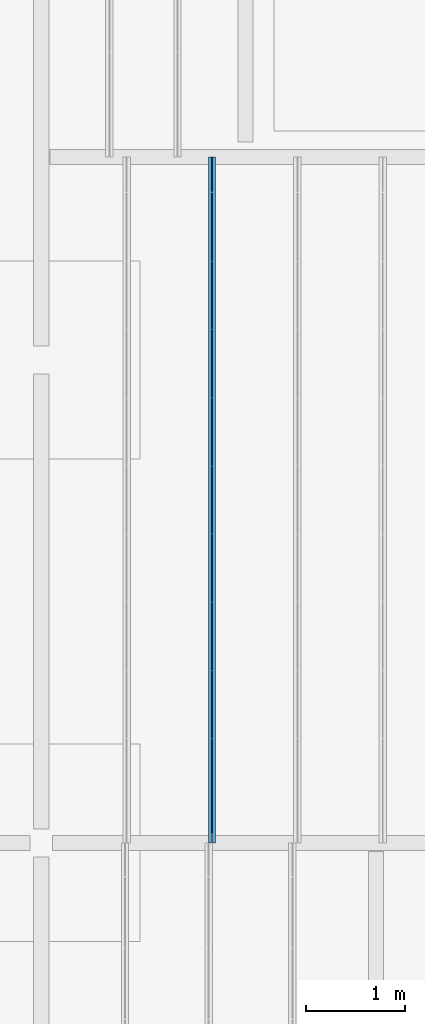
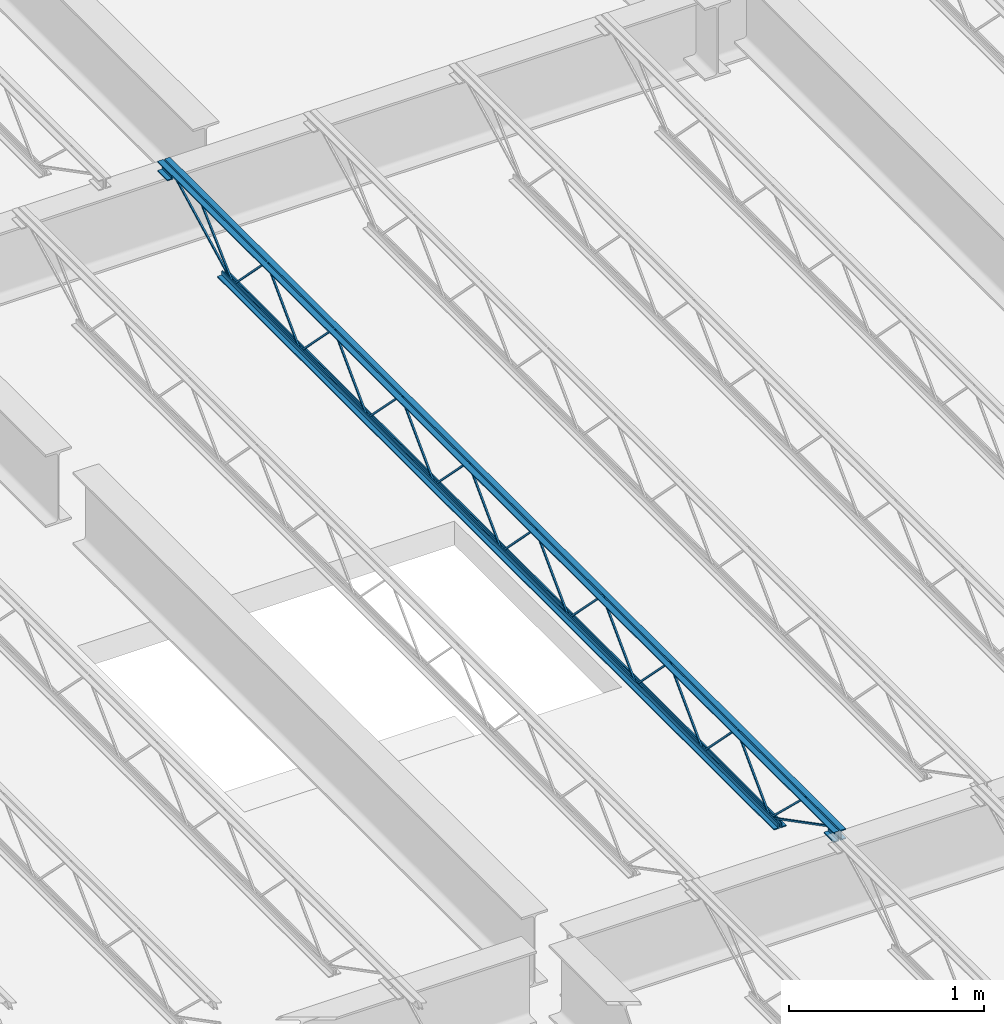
# One storey, part 25 of 75: 1 beam.
"""IFC2X3 building model written with IfcOpenShell, lengths in metres."""

import ifcopenshell
import ifcopenshell.guid

model = None  # the IFC model being written
_history = None  # IfcOwnerHistory: only IFC2X3 demands one
_inside = {}  # id of a spatial element -> (the spatial element, [elements in it])
_under = {}  # id of a project, library or spatial element -> (it, [spatial elements below it])
_declared = {}  # id of a project -> (the project, [libraries it declares])
_typed = {}  # id of a type object -> (the type object, [elements of that type])
_made_of = {}  # id of a material, layer set ... -> (it, [elements and type objects made of it])


def new_model(schema):
    """Start an empty IFC model of exactly this schema.

    Asked for "IFC4X3", IfcOpenShell would pick the latest addendum, in which some entities
    have other attributes; the version numbers below select the first issue.
    IFC2X3 requires an IfcOwnerHistory on every rooted entity: one is made here for all.
    """
    global model, _history
    if schema == "IFC4X3":
        model = ifcopenshell.file(schema_version=(4, 3, 0, 0))
    else:
        model = ifcopenshell.file(schema=schema)
    _inside.clear()
    _under.clear()
    _declared.clear()
    _typed.clear()
    _made_of.clear()
    _history = None
    if model.schema == "IFC2X3":
        org = make("IfcOrganization", Name="unknown")
        user = make(
            "IfcPersonAndOrganization",
            ThePerson=make("IfcPerson", FamilyName="unknown"),
            TheOrganization=org,
        )
        app = make(
            "IfcApplication",
            ApplicationDeveloper=org,
            Version="unknown",
            ApplicationFullName="unknown",
            ApplicationIdentifier="unknown",
        )
        _history = make(
            "IfcOwnerHistory",
            OwningUser=user,
            OwningApplication=app,
            ChangeAction="ADDED",
            CreationDate=0,
        )
    return model


def make(cls, **values):
    """One entity of the class cls with the attributes given. An attribute that is None is left unset."""
    return model.create_entity(
        cls, **{name: value for name, value in values.items() if value is not None}
    )


def entity(cls, *values):
    """Any entity or typed value of the class cls, its attributes in the order of the schema. None: left unset."""
    e = model.create_entity(cls)
    for i, value in enumerate(values):
        if value is not None:
            e[i] = value
    return e


def rooted(cls, **values):
    """An entity with a GlobalId (a new one), such as an element, a storey or a relation."""
    return make(cls, GlobalId=ifcopenshell.guid.new(), OwnerHistory=_history, **values)


def si_unit(unit_type, name, prefix=None):
    """IfcSIUnit, for example si_unit("LENGTHUNIT", "METRE", prefix="MILLI")."""
    return make("IfcSIUnit", UnitType=unit_type, Prefix=prefix, Name=name)


def converted_unit(unit_type, name, factor, base, dimensions=None, offset=None):
    """IfcConversionBasedUnit, such as the inch: factor (a typed value) times the base unit."""
    return make(
        "IfcConversionBasedUnit"
        if offset is None
        else "IfcConversionBasedUnitWithOffset",
        ConversionOffset=offset,
        Dimensions=None
        if dimensions is None
        else entity("IfcDimensionalExponents", *dimensions),
        UnitType=unit_type,
        Name=name,
        ConversionFactor=make(
            "IfcMeasureWithUnit", ValueComponent=factor, UnitComponent=base
        ),
    )


def assignment(units):
    """IfcUnitAssignment: the units of a project."""
    return None if units is None else make("IfcUnitAssignment", Units=units)


def point(xyz):
    """IfcCartesianPoint."""
    return None if xyz is None else make("IfcCartesianPoint", Coordinates=xyz)


def direction(xyz):
    """IfcDirection."""
    return None if xyz is None else make("IfcDirection", DirectionRatios=xyz)


def frame(location, z_axis=None, x_axis=None):
    """IfcAxis2Placement3D, a coordinate frame: its origin and axes. An axis left out is left unset."""
    return make(
        "IfcAxis2Placement3D",
        Location=point(location),
        Axis=direction(z_axis),
        RefDirection=direction(x_axis),
    )


def origin():
    """The frame at (0, 0, 0) with its axes left unset."""
    return frame((0.0, 0.0, 0.0))


def place(relative_to, where):
    """IfcLocalPlacement: puts the frame where relative to a parent placement (None: the world)."""
    return make(
        "IfcLocalPlacement", PlacementRelTo=relative_to, RelativePlacement=where
    )


def context(
    kind, dimensions, precision=None, world=None, true_north=None, identifier=None
):
    """IfcGeometricRepresentationContext, for example the 3D "Model" context."""
    return make(
        "IfcGeometricRepresentationContext",
        ContextIdentifier=identifier,
        ContextType=kind,
        CoordinateSpaceDimension=dimensions,
        Precision=precision,
        WorldCoordinateSystem=world,
        TrueNorth=true_north,
    )


def project(units=None, contexts=None):
    """IfcProject with its units and contexts."""
    return rooted(
        "IfcProject",
        Name="project",
        RepresentationContexts=contexts,
        UnitsInContext=assignment(units),
    )


def spatial(cls, under=None, at=None, **own):
    """A site, building, storey or space (cls), placed at a placement, below another one or the project."""
    s = rooted(cls, ObjectPlacement=at, **own)
    if under is not None:
        _under.setdefault(under.id(), (under, []))[1].append(s)
    return s


def faces_of(points, faces, orient=None, outer=None):
    """IfcFace entities. A face is a list of loops; a loop is a list of indices into points, from 0.

    orient and outer hold one flag for each loop. By default every Orientation is true, the
    first loop of a face is its IfcFaceOuterBound and the others are IfcFaceBound.
    """
    made = []
    for i, loops in enumerate(faces):
        bounds = []
        for j, loop in enumerate(loops):
            is_outer = j == 0 if outer is None else outer[i][j]
            bounds.append(
                make(
                    "IfcFaceOuterBound" if is_outer else "IfcFaceBound",
                    Bound=make("IfcPolyLoop", Polygon=[points[k] for k in loop]),
                    Orientation=True if orient is None else orient[i][j],
                )
            )
        made.append(make("IfcFace", Bounds=bounds))
    return made


def face_set(faces, orient=None, outer=None):
    """The faces of one IfcConnectedFaceSet. surface_model builds it on its shared points."""
    return ("IfcConnectedFaceSet", faces, orient, outer)


def surface_model(cls, points, shells):
    """IfcFaceBasedSurfaceModel or IfcShellBasedSurfaceModel (cls): surfaces that need not close."""
    shared = [point(p) for p in points]
    made = [make(c, CfsFaces=faces_of(shared, fs, o, b)) for c, fs, o, b in shells]
    if cls == "IfcFaceBasedSurfaceModel":
        return make(cls, FbsmFaces=made)
    return make(cls, SbsmBoundary=made)


def shape(context_of_items, identifier, shape_type, items):
    """IfcShapeRepresentation: the items that make up one representation, for example the "Body"."""
    return make(
        "IfcShapeRepresentation",
        ContextOfItems=context_of_items,
        RepresentationIdentifier=identifier,
        RepresentationType=shape_type,
        Items=items,
    )


def made_of(thing, what):
    """Note that an element or type object is made of a material, layer set ...; save() writes the relation."""
    if what is not None:
        _made_of.setdefault(what.id(), (what, []))[1].append(thing)
    return thing


def element(
    cls,
    number,
    at=None,
    inside=None,
    cuts=None,
    type_object=None,
    material=None,
    context=None,
    identifier="Body",
    shape_type=None,
    held_by="IfcProductDefinitionShape",
    body=None,
    shapes=None,
    **own,
):
    """One element of the class cls, such as IfcWall. Its Tag is "e" and its number.

    at: its placement. inside: the storey or other place that contains it. cuts: it is an
    opening in that element (IfcRelVoidsElement). A single representation is given by context,
    identifier, shape_type and body (its items); several are given by shapes. held_by: the class
    of the entity that holds the representations. save() writes the other relations.
    """
    e = rooted(cls, Tag="e%d" % number, ObjectPlacement=at, **own)
    if body is not None:
        shapes = [shape(context, identifier, shape_type, body)]
    if shapes is not None:
        e.Representation = make(held_by, Representations=shapes)
    if inside is not None:
        _inside.setdefault(inside.id(), (inside, []))[1].append(e)
    if cuts is not None:
        rooted(
            "IfcRelVoidsElement", RelatingBuildingElement=cuts, RelatedOpeningElement=e
        )
    if type_object is not None:
        _typed.setdefault(type_object.id(), (type_object, []))[1].append(e)
    return made_of(e, material)


def aggregate(whole, parts):
    """IfcRelAggregates: a whole, such as a stair, and the parts it consists of."""
    return rooted("IfcRelAggregates", RelatingObject=whole, RelatedObjects=parts)


def save(model, path):
    """Write the relations noted so far, then the file.

    IfcRelAggregates (storeys below a building ...), IfcRelContainedInSpatialStructure (elements
    in a storey), IfcRelDefinesByType, IfcRelAssociatesMaterial and IfcRelDeclares: one each for
    every whole, place, type object, material and project.
    """
    for whole, parts in _under.values():
        aggregate(whole, parts)
    for where, things in _inside.values():
        rooted(
            "IfcRelContainedInSpatialStructure",
            RelatedElements=things,
            RelatingStructure=where,
        )
    for kind, things in _typed.values():
        rooted("IfcRelDefinesByType", RelatedObjects=things, RelatingType=kind)
    for what, things in _made_of.values():
        rooted("IfcRelAssociatesMaterial", RelatedObjects=things, RelatingMaterial=what)
    for by, libraries in _declared.values():
        rooted("IfcRelDeclares", RelatingContext=by, RelatedDefinitions=libraries)
    model.write(path)


model = new_model("IFC2X3")

# Units and contexts
model_context = context("Model", 3, precision=1e-09, world=origin())
plan_context = context("Plan", 3, precision=1e-09, world=origin())
ifc_project = project(units=[si_unit("LENGTHUNIT", "METRE"), si_unit("AREAUNIT", "SQUARE_METRE"), si_unit("VOLUMEUNIT", "CUBIC_METRE"), converted_unit("PLANEANGLEUNIT", "DEGREE", entity("IfcRatioMeasure", 0.01745329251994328), si_unit("PLANEANGLEUNIT", "RADIAN"), dimensions=[0, 0, 0, 0, 0, 0, 0]), si_unit("TIMEUNIT", "SECOND")], contexts=[model_context, plan_context])

# Site, building, storey
site_placement = place(None, origin())
site = spatial("IfcSite", under=ifc_project, at=site_placement, Name="Default", CompositionType="ELEMENT")
building_placement = place(site_placement, origin())
building = spatial("IfcBuilding", under=site, at=building_placement, CompositionType="ELEMENT")
storey_placement = place(building_placement, origin())
storey = spatial("IfcBuildingStorey", under=building, at=storey_placement, Name="First Floor", CompositionType="ELEMENT", Elevation=-3.531500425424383e-13)

# Beam
beam_placement = place(storey_placement, frame((-18.37007499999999, 18.61003029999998, 4.112000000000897), z_axis=(0.0, 0.0, 1.0), x_axis=(-1.0, 0.0, 0.0)))
element("IfcBeam", 1, at=beam_placement, inside=storey, Name="M_K-Series Bar Joist-Rod Web:14K1:14K1", ObjectType="M_K-Series Bar Joist-Rod Web:14K1", context=model_context, shape_type="SurfaceModel", body=[
    surface_model("IfcFaceBasedSurfaceModel", [(-0.03200000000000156, -2.08975000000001, 0.01110000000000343), (-0.04149999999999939, -2.08975000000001, 0.01110000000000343), (-0.04149999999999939, -2.08975000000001, 0.001600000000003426), (-0.03200000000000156, -2.08975000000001, 0.001600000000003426), (-0.04150000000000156, -2.088563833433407, 0.01110000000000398), (-0.03200000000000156, -2.088563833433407, 0.01110000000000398), (-0.0414999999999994, -2.084586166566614, 0.001600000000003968), (-0.04149999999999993, -1.746498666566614, 0.3449000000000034), (-0.04149999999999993, -1.744126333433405, 0.3449000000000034), (-0.04150000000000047, -1.40603883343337, 0.001600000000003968), (-0.04150000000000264, -1.400875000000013, 0.001600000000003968), (-0.04150000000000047, -1.400875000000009, 0.01110000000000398), (-0.04150000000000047, -1.402061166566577, 0.01110000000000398), (-0.04149999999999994, -1.740148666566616, 0.3544000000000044), (-0.04149999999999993, -1.750476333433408, 0.3544000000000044), (-0.0319999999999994, -2.084586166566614, 0.001600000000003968), (-0.03200000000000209, -1.746498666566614, 0.3449000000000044), (-0.0320000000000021, -1.744126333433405, 0.3449000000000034), (-0.03200000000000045, -1.40603883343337, 0.001600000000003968), (-0.03200000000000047, -1.400875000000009, 0.001600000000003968), (-0.03200000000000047, -1.400875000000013, 0.01110000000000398), (-0.03200000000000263, -1.402061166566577, 0.01110000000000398), (-0.0320000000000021, -1.740148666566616, 0.3544000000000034), (-0.03200000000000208, -1.750476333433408, 0.3544000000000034), (-0.03200000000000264, -2.778625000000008, 0.01110000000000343), (-0.04150000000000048, -2.778625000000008, 0.01110000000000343), (-0.04150000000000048, -2.778625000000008, 0.001600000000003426), (-0.03200000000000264, -2.778625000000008, 0.001600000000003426), (-0.04150000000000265, -2.777438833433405, 0.01110000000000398), (-0.03200000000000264, -2.777438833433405, 0.01110000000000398), (-0.04149999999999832, -2.773461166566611, 0.001600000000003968), (-0.04149999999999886, -2.435373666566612, 0.3449000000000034), (-0.04149999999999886, -2.433001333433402, 0.3449000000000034), (-0.04149999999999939, -2.094913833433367, 0.001600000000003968), (-0.04150000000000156, -2.089750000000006, 0.001600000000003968), (-0.04150000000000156, -2.089750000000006, 0.01110000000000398), (-0.04150000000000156, -2.090936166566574, 0.01110000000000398), (-0.04150000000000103, -2.429023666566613, 0.3544000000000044), (-0.04150000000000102, -2.439351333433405, 0.3544000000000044), (-0.03200000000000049, -2.773461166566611, 0.001600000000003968), (-0.03200000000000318, -2.435373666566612, 0.3449000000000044), (-0.03200000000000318, -2.433001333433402, 0.3449000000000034), (-0.03200000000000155, -2.094913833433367, 0.001600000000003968), (-0.03200000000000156, -2.089750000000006, 0.001600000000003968), (-0.03199999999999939, -2.089750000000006, 0.01110000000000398), (-0.03200000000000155, -2.090936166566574, 0.01110000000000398), (-0.03200000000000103, -2.429023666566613, 0.3544000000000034), (-0.03200000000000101, -2.439351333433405, 0.3544000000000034), (-0.03200000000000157, -3.467500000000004, 0.01110000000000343), (-0.04149999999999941, -3.467500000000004, 0.01110000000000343), (-0.04149999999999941, -3.467500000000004, 0.001600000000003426), (-0.03200000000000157, -3.467500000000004, 0.001600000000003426), (-0.04150000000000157, -3.466313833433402, 0.01110000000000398), (-0.03200000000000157, -3.466313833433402, 0.01110000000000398), (-0.04149999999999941, -3.462336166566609, 0.001600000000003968), (-0.04149999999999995, -3.124248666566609, 0.3449000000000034), (-0.04149999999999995, -3.121876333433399, 0.3449000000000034), (-0.04150000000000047, -2.783788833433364, 0.001600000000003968), (-0.04150000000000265, -2.778625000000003, 0.001600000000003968), (-0.04150000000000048, -2.778625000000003, 0.01110000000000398), (-0.04150000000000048, -2.779811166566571, 0.01110000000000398), (-0.04149999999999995, -3.11789866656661, 0.3544000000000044), (-0.04149999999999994, -3.128226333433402, 0.3544000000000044), (-0.03199999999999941, -3.462336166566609, 0.001600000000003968), (-0.0320000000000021, -3.124248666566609, 0.3449000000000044), (-0.03200000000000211, -3.121876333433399, 0.3449000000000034), (-0.03200000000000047, -2.783788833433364, 0.001600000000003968), (-0.03200000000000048, -2.778625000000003, 0.001600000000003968), (-0.03200000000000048, -2.778625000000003, 0.01110000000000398), (-0.03200000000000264, -2.779811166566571, 0.01110000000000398), (-0.03200000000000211, -3.11789866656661, 0.3544000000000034), (-0.0320000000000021, -3.128226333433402, 0.3544000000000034), (-0.03200000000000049, -4.156375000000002, 0.01110000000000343), (-0.04149999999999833, -4.156375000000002, 0.01110000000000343), (-0.04149999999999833, -4.156375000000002, 0.001600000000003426), (-0.03200000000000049, -4.156375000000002, 0.001600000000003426), (-0.0415000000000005, -4.155188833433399, 0.01110000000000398), (-0.03200000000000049, -4.155188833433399, 0.01110000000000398), (-0.04149999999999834, -4.151211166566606, 0.001600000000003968), (-0.04149999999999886, -3.813123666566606, 0.3449000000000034), (-0.04149999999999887, -3.810751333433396, 0.3449000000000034), (-0.0414999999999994, -3.472663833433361, 0.001600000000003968), (-0.04150000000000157, -3.4675, 0.001600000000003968), (-0.04149999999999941, -3.4675, 0.01110000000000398), (-0.04149999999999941, -3.468686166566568, 0.01110000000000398), (-0.04149999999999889, -3.806773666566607, 0.3544000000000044), (-0.04149999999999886, -3.817101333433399, 0.3544000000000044), (-0.03199999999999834, -4.151211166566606, 0.001600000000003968), (-0.03200000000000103, -3.813123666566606, 0.3449000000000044), (-0.03200000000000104, -3.810751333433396, 0.3449000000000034), (-0.03199999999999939, -3.472663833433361, 0.001600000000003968), (-0.0319999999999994, -3.4675, 0.001600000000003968), (-0.0319999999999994, -3.4675, 0.01110000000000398), (-0.03200000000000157, -3.468686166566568, 0.01110000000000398), (-0.03200000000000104, -3.806773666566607, 0.3544000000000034), (-0.03200000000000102, -3.817101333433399, 0.3544000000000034), (-0.03200000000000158, -4.845249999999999, 0.01110000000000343), (-0.04149999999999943, -4.845249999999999, 0.01110000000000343), (-0.04149999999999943, -4.845249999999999, 0.001600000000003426), (-0.03200000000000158, -4.845249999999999, 0.001600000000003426), (-0.04150000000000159, -4.844063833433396, 0.01110000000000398), (-0.03200000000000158, -4.844063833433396, 0.01110000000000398), (-0.04149999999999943, -4.840086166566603, 0.001600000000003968), (-0.04149999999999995, -4.501998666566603, 0.3449000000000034), (-0.04149999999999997, -4.499626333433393, 0.3449000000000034), (-0.04150000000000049, -4.161538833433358, 0.001600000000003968), (-0.0415000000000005, -4.156374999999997, 0.001600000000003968), (-0.0415000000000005, -4.156374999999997, 0.01110000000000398), (-0.0415000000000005, -4.157561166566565, 0.01110000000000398), (-0.04149999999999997, -4.495648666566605, 0.3544000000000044), (-0.04149999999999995, -4.505976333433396, 0.3544000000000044), (-0.03199999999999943, -4.840086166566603, 0.001600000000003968), (-0.03200000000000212, -4.501998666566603, 0.3449000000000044), (-0.03200000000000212, -4.499626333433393, 0.3449000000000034), (-0.03200000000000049, -4.161538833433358, 0.001600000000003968), (-0.03200000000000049, -4.156374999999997, 0.001600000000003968), (-0.03199999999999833, -4.156374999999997, 0.01110000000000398), (-0.03200000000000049, -4.157561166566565, 0.01110000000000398), (-0.03200000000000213, -4.495648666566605, 0.3544000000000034), (-0.03200000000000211, -4.505976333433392, 0.3544000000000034), (-0.03200000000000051, -5.534124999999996, 0.01110000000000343), (-0.04149999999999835, -5.534124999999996, 0.01110000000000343), (-0.04149999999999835, -5.534124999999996, 0.001600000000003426), (-0.03200000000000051, -5.534124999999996, 0.001600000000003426), (-0.04150000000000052, -5.532938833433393, 0.01110000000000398), (-0.03200000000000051, -5.532938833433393, 0.01110000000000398), (-0.04149999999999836, -5.5289611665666, 0.001600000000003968), (-0.04149999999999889, -5.1908736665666, 0.3449000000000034), (-0.04149999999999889, -5.188501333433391, 0.3449000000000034), (-0.04149999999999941, -4.850413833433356, 0.001600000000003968), (-0.04150000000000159, -4.845249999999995, 0.001600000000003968), (-0.04149999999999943, -4.845249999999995, 0.01110000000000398), (-0.04149999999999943, -4.846436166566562, 0.01110000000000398), (-0.04149999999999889, -5.184523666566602, 0.3544000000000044), (-0.04149999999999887, -5.194851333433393, 0.3544000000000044), (-0.03199999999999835, -5.5289611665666, 0.001600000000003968), (-0.03200000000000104, -5.1908736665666, 0.3449000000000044), (-0.03200000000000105, -5.188501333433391, 0.3449000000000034), (-0.03199999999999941, -4.850413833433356, 0.001600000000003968), (-0.03199999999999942, -4.845249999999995, 0.001600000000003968), (-0.03199999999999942, -4.845249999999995, 0.01110000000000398), (-0.03200000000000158, -4.846436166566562, 0.01110000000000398), (-0.03200000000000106, -5.184523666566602, 0.3544000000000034), (-0.03200000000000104, -5.194851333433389, 0.3544000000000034), (-0.0320000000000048, -1.400875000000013, 0.01109999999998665), (-0.04150000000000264, -1.400875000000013, 0.01109999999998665), (-0.04150000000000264, -1.400875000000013, 0.001599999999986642), (-0.0320000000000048, -1.400875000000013, 0.001599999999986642), (-0.04150000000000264, -1.39968883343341, 0.01109999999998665), (-0.03200000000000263, -1.39968883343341, 0.01109999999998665), (-0.04150000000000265, -1.395711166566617, 0.001599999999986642), (-0.04150000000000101, -1.057623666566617, 0.3448999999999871), (-0.04150000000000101, -1.055251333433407, 0.3448999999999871), (-0.04150000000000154, -0.7171638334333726, 0.001599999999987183), (-0.04150000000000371, -0.7120000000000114, 0.001599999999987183), (-0.04150000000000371, -0.7120000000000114, 0.01109999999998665), (-0.04150000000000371, -0.7131861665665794, 0.01109999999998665), (-0.04150000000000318, -1.051273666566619, 0.3543999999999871), (-0.04150000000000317, -1.06160133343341, 0.3543999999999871), (-0.03200000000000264, -1.395711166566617, 0.001599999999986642), (-0.03200000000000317, -1.057623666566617, 0.3448999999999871), (-0.03200000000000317, -1.055251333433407, 0.3448999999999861), (-0.03200000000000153, -0.7171638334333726, 0.001599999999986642), (-0.03200000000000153, -0.7120000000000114, 0.001599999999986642), (-0.03200000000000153, -0.7120000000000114, 0.01109999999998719), (-0.03200000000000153, -0.7131861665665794, 0.01109999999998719), (-0.03200000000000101, -1.051273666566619, 0.3543999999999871), (-0.03200000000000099, -1.06160133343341, 0.3543999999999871), (-0.0320000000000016, -6.222999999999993, 0.01110000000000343), (-0.04149999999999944, -6.222999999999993, 0.01110000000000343), (-0.04149999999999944, -6.222999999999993, 0.001600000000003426), (-0.0320000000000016, -6.222999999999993, 0.001600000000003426), (-0.04150000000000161, -6.221813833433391, 0.01110000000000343), (-0.0320000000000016, -6.221813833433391, 0.01110000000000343), (-0.04149999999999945, -6.217836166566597, 0.001600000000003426), (-0.04149999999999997, -5.879748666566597, 0.3449000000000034), (-0.04149999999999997, -5.877376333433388, 0.3449000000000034), (-0.04149999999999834, -5.539288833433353, 0.001600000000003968), (-0.04150000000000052, -5.534124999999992, 0.001600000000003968), (-0.04150000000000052, -5.534124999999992, 0.01110000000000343), (-0.04150000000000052, -5.53531116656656, 0.01110000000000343), (-0.04149999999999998, -5.873398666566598, 0.3544000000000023), (-0.04149999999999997, -5.883726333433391, 0.3544000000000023), (-0.03199999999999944, -6.217836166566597, 0.001600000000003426), (-0.03200000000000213, -5.879748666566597, 0.3449000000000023), (-0.03200000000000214, -5.877376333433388, 0.3449000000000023), (-0.0320000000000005, -5.539288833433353, 0.001600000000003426), (-0.03200000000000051, -5.534124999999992, 0.001600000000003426), (-0.03199999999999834, -5.534124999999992, 0.01110000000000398), (-0.03200000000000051, -5.53531116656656, 0.01110000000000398), (-0.03200000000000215, -5.873398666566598, 0.3544000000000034), (-0.03200000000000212, -5.883726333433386, 0.3544000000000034), (-0.04150000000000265, 0.0, 0.3559999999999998), (-0.07350000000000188, 0.0, 0.3559999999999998), (-0.07350000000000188, 0.0, 0.349499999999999), (-0.04800000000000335, 0.0, 0.349499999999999), (-0.04800000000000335, 0.0, 0.3239999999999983), (-0.04150000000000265, 0.0, 0.3239999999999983), (-0.03200000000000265, 0.0, 0.3559999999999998), (-0.03200000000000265, 0.0, 0.3239999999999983), (-0.02550000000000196, 0.0, 0.3239999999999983), (-0.02550000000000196, 0.0, 0.349499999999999), (0.0, 0.0, 0.349499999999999), (0.0, 0.0, 0.3559999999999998), (-0.04150000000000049, -6.934999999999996, 0.3559999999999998), (-0.07349999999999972, -6.934999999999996, 0.3559999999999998), (-0.07349999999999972, -6.934999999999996, 0.349499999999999), (-0.04800000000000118, -6.934999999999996, 0.349499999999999), (-0.04800000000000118, -6.934999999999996, 0.3239999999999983), (-0.04150000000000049, -6.934999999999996, 0.3239999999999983), (-0.03200000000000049, -6.934999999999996, 0.3559999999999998), (-0.03200000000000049, -6.934999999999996, 0.3239999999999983), (-0.02549999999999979, -6.934999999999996, 0.3239999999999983), (-0.02549999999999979, -6.934999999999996, 0.349499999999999), (0.0, -6.934999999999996, 0.349499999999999), (0.0, -6.934999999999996, 0.3559999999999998), (-0.03200000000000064, -6.83500000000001, 0.2924999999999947), (0.0, -6.83500000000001, 0.2924999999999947), (0.0, -6.83500000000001, 0.2989999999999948), (-0.02549999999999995, -6.83500000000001, 0.2989999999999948), (-0.02549999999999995, -6.83500000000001, 0.3239999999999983), (-0.03200000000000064, -6.83500000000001, 0.3239999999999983), (-0.07349999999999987, -6.83500000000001, 0.2924999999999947), (-0.04150000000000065, -6.83500000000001, 0.2924999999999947), (-0.04150000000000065, -6.83500000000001, 0.3239999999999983), (-0.04800000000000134, -6.83500000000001, 0.3239999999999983), (-0.04800000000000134, -6.83500000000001, 0.2989999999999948), (-0.07349999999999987, -6.83500000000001, 0.2989999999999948), (-0.03200000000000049, -6.934999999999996, 0.2924999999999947), (0.0, -6.934999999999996, 0.2924999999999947), (0.0, -6.934999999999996, 0.2989999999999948), (-0.02549999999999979, -6.934999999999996, 0.2989999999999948), (-0.07349999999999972, -6.934999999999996, 0.2924999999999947), (-0.04150000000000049, -6.934999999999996, 0.2924999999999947), (-0.04800000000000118, -6.934999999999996, 0.2989999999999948), (-0.07349999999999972, -6.934999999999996, 0.2989999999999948), (-0.04150000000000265, 0.0, 0.2924999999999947), (-0.04800000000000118, 0.0, 0.3239999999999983), (-0.04800000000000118, 0.0, 0.2989999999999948), (-0.07350000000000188, 0.0, 0.2989999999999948), (-0.07350000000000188, 0.0, 0.2924999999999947), (-0.03200000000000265, 0.0, 0.2924999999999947), (0.0, 0.0, 0.2924999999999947), (0.0, 0.0, 0.2989999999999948), (-0.02550000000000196, 0.0, 0.2989999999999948), (-0.0415000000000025, -0.0999999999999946, 0.2924999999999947), (-0.0415000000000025, -0.0999999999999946, 0.3239999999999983), (-0.04800000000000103, -0.0999999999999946, 0.3239999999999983), (-0.04800000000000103, -0.0999999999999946, 0.2989999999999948), (-0.07350000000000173, -0.0999999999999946, 0.2989999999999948), (-0.07350000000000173, -0.0999999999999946, 0.2924999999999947), (-0.03200000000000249, -0.0999999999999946, 0.2924999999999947), (0.0, -0.0999999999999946, 0.2924999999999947), (0.0, -0.0999999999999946, 0.2989999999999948), (-0.02550000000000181, -0.0999999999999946, 0.2989999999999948), (-0.02550000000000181, -0.0999999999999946, 0.3239999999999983), (-0.03200000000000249, -0.0999999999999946, 0.3239999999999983), (-0.0415000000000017, -0.6119999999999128, 0.0), (-0.0415000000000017, -0.6119999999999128, 0.03199999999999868), (-0.04800000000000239, -0.6119999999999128, 0.03199999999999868), (-0.04800000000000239, -0.6119999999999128, 0.006499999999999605), (-0.07350000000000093, -0.6119999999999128, 0.006499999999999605), (-0.07350000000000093, -0.6119999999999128, 0.0), (-0.03200000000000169, -0.6119999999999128, 0.0), (0.0, -0.6119999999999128, 0.0), (0.0, -0.6119999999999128, 0.006499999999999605), (-0.02550000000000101, -0.6119999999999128, 0.006499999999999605), (-0.02550000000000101, -0.6119999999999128, 0.03199999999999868), (-0.03200000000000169, -0.6119999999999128, 0.03199999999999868), (-0.04150000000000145, -6.322999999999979, 0.0), (-0.04150000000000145, -6.322999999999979, 0.03199999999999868), (-0.04800000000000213, -6.322999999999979, 0.03199999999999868), (-0.04800000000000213, -6.322999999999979, 0.006499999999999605), (-0.07350000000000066, -6.322999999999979, 0.006499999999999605), (-0.07350000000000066, -6.322999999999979, 0.0), (-0.03200000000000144, -6.322999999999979, 0.0), (0.0, -6.322999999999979, 0.0), (0.0, -6.322999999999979, 0.006499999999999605), (-0.02550000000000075, -6.322999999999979, 0.006499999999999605), (-0.02550000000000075, -6.322999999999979, 0.03199999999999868), (-0.03200000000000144, -6.322999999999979, 0.03199999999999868), (-0.03199999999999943, -6.220811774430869, 0.01056594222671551), (-0.04149999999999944, -6.220811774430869, 0.01056594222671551), (-0.04149999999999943, -6.225188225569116, 0.002134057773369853), (-0.03200000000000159, -6.225188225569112, 0.002134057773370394), (-0.03199999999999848, -6.83384071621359, 0.3287499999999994), (-0.03200000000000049, -6.934999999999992, 0.3287499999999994), (-0.03200000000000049, -6.934999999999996, 0.3192499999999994), (-0.03200000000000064, -6.836159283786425, 0.3192499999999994), (-0.04149999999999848, -6.836159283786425, 0.3192499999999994), (-0.04149999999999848, -6.83384071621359, 0.3287499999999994), (-0.04149999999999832, -6.934999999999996, 0.3287499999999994), (-0.04150000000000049, -6.934999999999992, 0.3192499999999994), (-0.03200000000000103, -6.587394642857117, 0.341700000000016), (-0.04149999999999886, -6.587394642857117, 0.341700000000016), (-0.04149999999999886, -6.587394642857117, 0.332200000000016), (-0.03200000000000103, -6.587394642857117, 0.332200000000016), (-0.04150000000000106, -6.572812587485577, 0.341700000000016), (-0.03200000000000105, -6.572812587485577, 0.341700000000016), (-0.04149999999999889, -6.576576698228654, 0.332200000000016), (-0.04149999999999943, -6.226253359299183, 0.002889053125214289), (-0.04149999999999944, -6.219746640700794, 0.009810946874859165), (-0.03199999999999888, -6.576576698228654, 0.332200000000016), (-0.03200000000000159, -6.226253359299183, 0.002889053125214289), (-0.03199999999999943, -6.219746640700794, 0.009810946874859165), (-0.0320000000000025, -0.09781177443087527, 0.3197840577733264), (-0.03200000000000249, -0.1021882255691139, 0.3282159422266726), (-0.04150000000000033, -0.1021882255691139, 0.3282159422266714), (-0.04150000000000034, -0.09781177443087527, 0.3197840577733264), (-0.03200000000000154, -0.7098117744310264, 0.002134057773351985), (-0.03200000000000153, -0.7141882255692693, 0.01056594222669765), (-0.04149999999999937, -0.7141882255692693, 0.01056594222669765), (-0.04149999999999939, -0.7098117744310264, 0.002134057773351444), (-0.03199999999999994, -0.3497651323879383, 0.3462172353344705), (-0.0320000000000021, -0.3563312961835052, 0.3530827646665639), (-0.0415000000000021, -0.3563312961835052, 0.3530827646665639), (-0.04149999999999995, -0.3497651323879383, 0.3462172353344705), (-0.03199999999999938, -0.7087169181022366, 0.00291723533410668), (-0.03200000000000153, -0.7152830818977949, 0.009782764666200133), (-0.04150000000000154, -0.7152830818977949, 0.009782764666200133), (-0.04149999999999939, -0.7087169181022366, 0.00291723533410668)], [face_set([[[0, 1, 2, 3]], [[1, 4, 5, 0]], [[2, 6, 7, 8, 9, 10, 11, 12, 13, 14, 4, 1]], [[3, 2, 6, 15]], [[0, 3, 15, 16, 17, 18, 19, 20, 21, 22, 23, 5]], [[4, 5, 23, 14]], [[15, 16, 7, 6]], [[14, 13, 22, 23]], [[16, 7, 8, 17]], [[13, 12, 21, 22]], [[17, 8, 9, 18]], [[20, 11, 10, 19]], [[12, 11, 20, 21]], [[18, 9, 10, 19]]]), face_set([[[24, 25, 26, 27]], [[25, 28, 29, 24]], [[26, 30, 31, 32, 33, 34, 35, 36, 37, 38, 28, 25]], [[27, 26, 30, 39]], [[24, 27, 39, 40, 41, 42, 43, 44, 45, 46, 47, 29]], [[28, 29, 47, 38]], [[39, 40, 31, 30]], [[38, 37, 46, 47]], [[40, 31, 32, 41]], [[37, 36, 45, 46]], [[41, 32, 33, 42]], [[44, 35, 34, 43]], [[36, 35, 44, 45]], [[42, 33, 34, 43]]]), face_set([[[48, 49, 50, 51]], [[49, 52, 53, 48]], [[50, 54, 55, 56, 57, 58, 59, 60, 61, 62, 52, 49]], [[51, 50, 54, 63]], [[48, 51, 63, 64, 65, 66, 67, 68, 69, 70, 71, 53]], [[52, 53, 71, 62]], [[63, 64, 55, 54]], [[62, 61, 70, 71]], [[64, 55, 56, 65]], [[61, 60, 69, 70]], [[65, 56, 57, 66]], [[68, 59, 58, 67]], [[60, 59, 68, 69]], [[66, 57, 58, 67]]]), face_set([[[72, 73, 74, 75]], [[73, 76, 77, 72]], [[74, 78, 79, 80, 81, 82, 83, 84, 85, 86, 76, 73]], [[75, 74, 78, 87]], [[72, 75, 87, 88, 89, 90, 91, 92, 93, 94, 95, 77]], [[76, 77, 95, 86]], [[87, 88, 79, 78]], [[86, 85, 94, 95]], [[88, 79, 80, 89]], [[85, 84, 93, 94]], [[89, 80, 81, 90]], [[92, 83, 82, 91]], [[84, 83, 92, 93]], [[90, 81, 82, 91]]]), face_set([[[96, 97, 98, 99]], [[97, 100, 101, 96]], [[98, 102, 103, 104, 105, 106, 107, 108, 109, 110, 100, 97]], [[99, 98, 102, 111]], [[96, 99, 111, 112, 113, 114, 115, 116, 117, 118, 119, 101]], [[100, 101, 119, 110]], [[111, 112, 103, 102]], [[110, 109, 118, 119]], [[112, 103, 104, 113]], [[109, 108, 117, 118]], [[113, 104, 105, 114]], [[116, 107, 106, 115]], [[108, 107, 116, 117]], [[114, 105, 106, 115]]]), face_set([[[120, 121, 122, 123]], [[121, 124, 125, 120]], [[122, 126, 127, 128, 129, 130, 131, 132, 133, 134, 124, 121]], [[123, 122, 126, 135]], [[120, 123, 135, 136, 137, 138, 139, 140, 141, 142, 143, 125]], [[124, 125, 143, 134]], [[135, 136, 127, 126]], [[134, 133, 142, 143]], [[136, 127, 128, 137]], [[133, 132, 141, 142]], [[137, 128, 129, 138]], [[140, 131, 130, 139]], [[132, 131, 140, 141]], [[138, 129, 130, 139]]]), face_set([[[144, 145, 146, 147]], [[145, 148, 149, 144]], [[146, 150, 151, 152, 153, 154, 155, 156, 157, 158, 148, 145]], [[147, 146, 150, 159]], [[144, 147, 159, 160, 161, 162, 163, 164, 165, 166, 167, 149]], [[148, 149, 167, 158]], [[159, 160, 151, 150]], [[158, 157, 166, 167]], [[160, 151, 152, 161]], [[157, 156, 165, 166]], [[161, 152, 153, 162]], [[164, 155, 154, 163]], [[156, 155, 164, 165]], [[162, 153, 154, 163]]]), face_set([[[168, 169, 170, 171]], [[169, 172, 173, 168]], [[170, 174, 175, 176, 177, 178, 179, 180, 181, 182, 172, 169]], [[171, 170, 174, 183]], [[168, 171, 183, 184, 185, 186, 187, 188, 189, 190, 191, 173]], [[172, 173, 191, 182]], [[183, 184, 175, 174]], [[182, 181, 190, 191]], [[184, 175, 176, 185]], [[181, 180, 189, 190]], [[185, 176, 177, 186]], [[188, 179, 178, 187]], [[180, 179, 188, 189]], [[186, 177, 178, 187]]]), face_set([[[192, 193, 194, 195, 196, 197]], [[198, 199, 200, 201, 202, 203]], [[204, 205, 206, 207, 208, 209]], [[210, 211, 212, 213, 214, 215]], [[197, 192, 204, 209]], [[196, 197, 209, 208]], [[195, 207, 208, 196]], [[194, 195, 207, 206]], [[193, 205, 206, 194]], [[192, 204, 205, 193]], [[203, 215, 210, 198]], [[202, 203, 215, 214]], [[201, 202, 214, 213]], [[200, 201, 213, 212]], [[199, 200, 212, 211]], [[198, 210, 211, 199]]]), face_set([[[216, 217, 218, 219, 220, 221]], [[222, 223, 224, 225, 226, 227]], [[228, 229, 230, 231, 212, 211]], [[232, 233, 209, 208, 234, 235]], [[221, 211, 228, 216]], [[220, 212, 211, 221]], [[219, 220, 212, 231]], [[218, 230, 231, 219]], [[217, 218, 230, 229]], [[216, 217, 229, 228]], [[227, 235, 232, 222]], [[226, 234, 235, 227]], [[225, 208, 234, 226]], [[224, 209, 208, 225]], [[223, 224, 209, 233]], [[222, 223, 233, 232]]]), face_set([[[236, 197, 237, 238, 239, 240]], [[241, 242, 243, 244, 200, 199]], [[245, 246, 247, 248, 249, 250]], [[251, 252, 253, 254, 255, 256]], [[240, 236, 245, 250]], [[239, 249, 250, 240]], [[238, 248, 249, 239]], [[237, 247, 248, 238]], [[197, 246, 247, 237]], [[236, 197, 246, 245]], [[199, 256, 251, 241]], [[200, 255, 256, 199]], [[244, 200, 255, 254]], [[243, 253, 254, 244]], [[242, 243, 253, 252]], [[241, 242, 252, 251]]]), face_set([[[257, 258, 259, 260, 261, 262]], [[263, 264, 265, 266, 267, 268]], [[269, 270, 271, 272, 273, 274]], [[275, 276, 277, 278, 279, 280]], [[262, 257, 269, 274]], [[261, 273, 274, 262]], [[260, 272, 273, 261]], [[259, 271, 272, 260]], [[258, 270, 271, 259]], [[257, 258, 270, 269]], [[268, 280, 275, 263]], [[267, 279, 280, 268]], [[266, 267, 279, 278]], [[265, 277, 278, 266]], [[264, 265, 277, 276]], [[263, 264, 276, 275]]]), face_set([[[281, 282, 283, 284]], [[284, 281, 285, 286, 287, 288]], [[283, 284, 288, 289]], [[282, 290, 291, 292, 289, 283]], [[281, 285, 290, 282]], [[286, 291, 292, 287]], [[289, 288, 287, 292]], [[285, 286, 291, 290]]]), face_set([[[293, 294, 295, 296]], [[294, 297, 298, 293]], [[295, 299, 300, 301, 297, 294]], [[296, 295, 299, 302]], [[293, 296, 302, 303, 304, 298]], [[304, 301, 300, 303]], [[297, 301, 304, 298]], [[302, 299, 300, 303]]]), face_set([[[305, 306, 307, 308]], [[309, 310, 311, 312]], [[308, 312, 309, 305]], [[307, 311, 312, 308]], [[306, 307, 311, 310]], [[305, 306, 310, 309]]]), face_set([[[313, 314, 315, 316]], [[317, 318, 319, 320]], [[316, 320, 317, 313]], [[315, 319, 320, 316]], [[314, 315, 319, 318]], [[313, 314, 318, 317]]])]),
])

save(model, "model.ifc")
